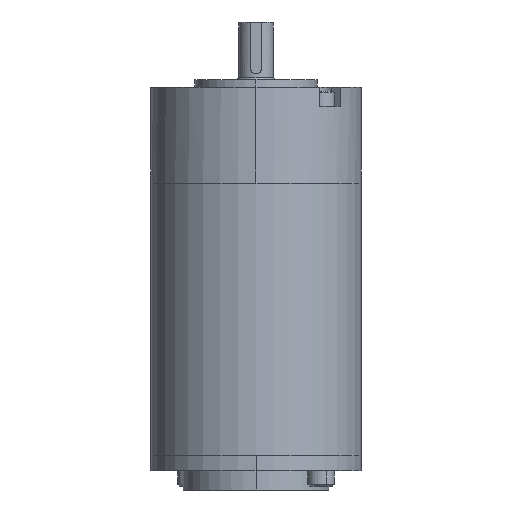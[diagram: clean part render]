
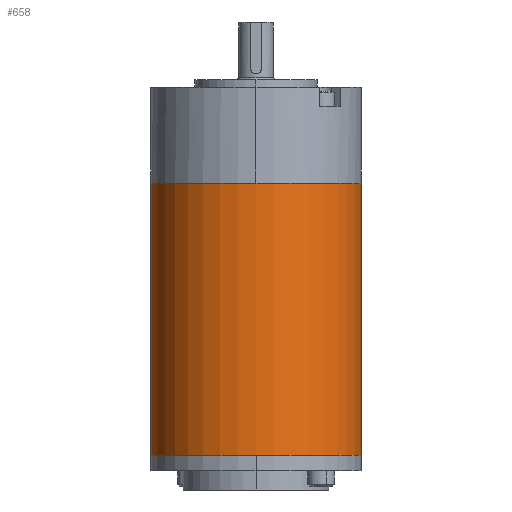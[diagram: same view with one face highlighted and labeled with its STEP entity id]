
A CAD part, front view. The second image highlights one B-rep face of the part: STEP entity #658.
In plain terms, the highlighted cylindrical face has radius 27.5 mm (diameter 55 mm), a partial arc.
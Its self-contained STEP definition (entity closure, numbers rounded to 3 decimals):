
#112 = CARTESIAN_POINT ( 'NONE',  ( 27.5, 0., 0. ) ) ;
#547 = DIRECTION ( 'NONE',  ( -1., 0., 0. ) ) ;
#643 = ORIENTED_EDGE ( 'NONE', *, *, #6937, .T. ) ;
#658 = ADVANCED_FACE ( 'NONE', ( #4346 ), #2693, .T. ) ;
#1267 = DIRECTION ( 'NONE',  ( 1., 0., 0. ) ) ;
#1477 = CARTESIAN_POINT ( 'NONE',  ( 27.5, 0., 71. ) ) ;
#1680 = CARTESIAN_POINT ( 'NONE',  ( -27.5, 0., 0. ) ) ;
#2505 = VERTEX_POINT ( 'NONE', #5480 ) ;
#2521 = DIRECTION ( 'NONE',  ( 0., 0., -1. ) ) ;
#2693 = CYLINDRICAL_SURFACE ( 'NONE', #5713, 27.5 ) ;
#3438 = EDGE_CURVE ( 'NONE', #6156, #3637, #6589, .T. ) ;
#3540 = EDGE_LOOP ( 'NONE', ( #4289, #6583, #6497, #643 ) ) ;
#3637 = VERTEX_POINT ( 'NONE', #112 ) ;
#3661 = AXIS2_PLACEMENT_3D ( 'NONE', #6705, #6196, #1267 ) ;
#3701 = CIRCLE ( 'NONE', #6055, 27.5 ) ;
#3709 = EDGE_CURVE ( 'NONE', #2505, #6156, #5191, .T. ) ;
#3747 = CARTESIAN_POINT ( 'NONE',  ( -27.5, 0., 79. ) ) ;
#3798 = DIRECTION ( 'NONE',  ( 0., 0., -1. ) ) ;
#4031 = VECTOR ( 'NONE', #5438, 1000. ) ;
#4289 = ORIENTED_EDGE ( 'NONE', *, *, #3438, .F. ) ;
#4346 = FACE_OUTER_BOUND ( 'NONE', #3540, .T. ) ;
#4553 = LINE ( 'NONE', #3747, #6864 ) ;
#4839 = CARTESIAN_POINT ( 'NONE',  ( 27.5, 0., 79. ) ) ;
#5191 = CIRCLE ( 'NONE', #3661, 27.5 ) ;
#5438 = DIRECTION ( 'NONE',  ( 0., 0., -1. ) ) ;
#5480 = CARTESIAN_POINT ( 'NONE',  ( -27.5, 0., 71. ) ) ;
#5582 = EDGE_CURVE ( 'NONE', #2505, #6259, #4553, .T. ) ;
#5713 = AXIS2_PLACEMENT_3D ( 'NONE', #6294, #2521, #547 ) ;
#6055 = AXIS2_PLACEMENT_3D ( 'NONE', #6789, #6814, #6731 ) ;
#6156 = VERTEX_POINT ( 'NONE', #1477 ) ;
#6196 = DIRECTION ( 'NONE',  ( 0., 0., 1. ) ) ;
#6259 = VERTEX_POINT ( 'NONE', #1680 ) ;
#6294 = CARTESIAN_POINT ( 'NONE',  ( 0., 0., 79. ) ) ;
#6497 = ORIENTED_EDGE ( 'NONE', *, *, #5582, .T. ) ;
#6583 = ORIENTED_EDGE ( 'NONE', *, *, #3709, .F. ) ;
#6589 = LINE ( 'NONE', #4839, #4031 ) ;
#6705 = CARTESIAN_POINT ( 'NONE',  ( 0., 0., 71. ) ) ;
#6731 = DIRECTION ( 'NONE',  ( 1., 0., 0. ) ) ;
#6789 = CARTESIAN_POINT ( 'NONE',  ( 0., 0., 0. ) ) ;
#6814 = DIRECTION ( 'NONE',  ( 0., 0., 1. ) ) ;
#6864 = VECTOR ( 'NONE', #3798, 1000. ) ;
#6937 = EDGE_CURVE ( 'NONE', #6259, #3637, #3701, .T. ) ;
